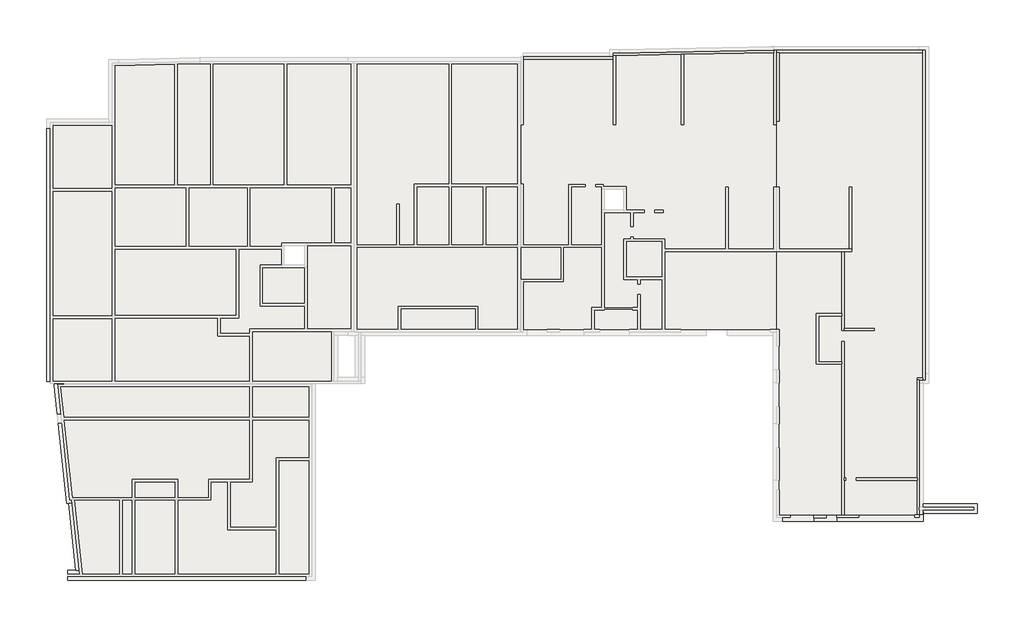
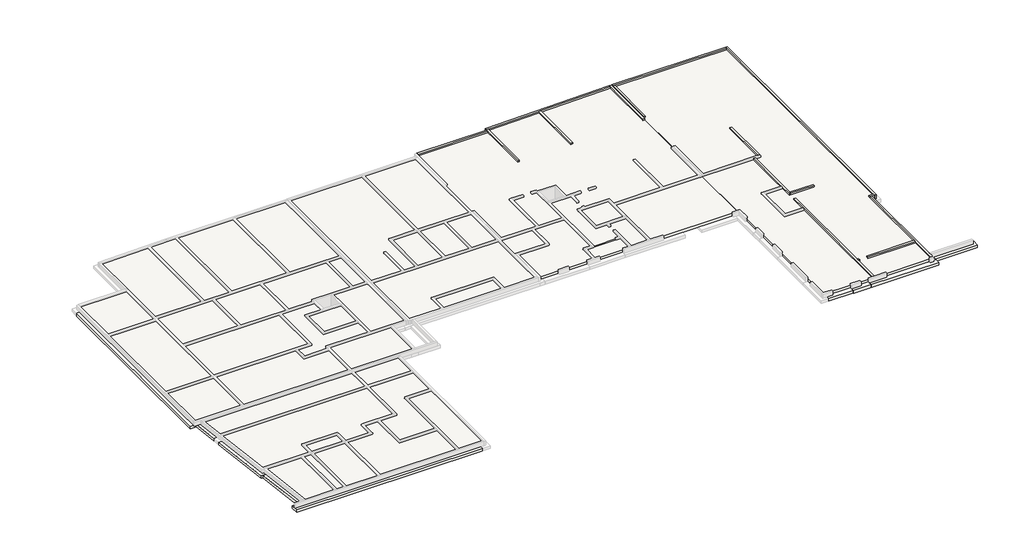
# One storey, part 3 of 5: 16 walls, 14 footings, 7 slabs.
"""IFC4 building model written with IfcOpenShell, lengths in millimetres."""

from ifc_helpers import new_model, si_unit, frame, origin, place, context, project, spatial, polyline, outline, extrude, faceted_brep, element, save

model = new_model("IFC4")

# Units and contexts
model_context = context("Model", 3, world=origin())
ifc_project = project(units=[si_unit("LENGTHUNIT", "METRE", prefix="MILLI")], contexts=[model_context])

# Site, building, storey
site = spatial("IfcSite", under=ifc_project)
building = spatial("IfcBuilding", under=site)
storey = spatial("IfcBuildingStorey", under=building, Name="Base Mur soubassement", Elevation=-480.0)

# Footings
placement = place(None, origin())
element("IfcFooting", 1, ObjectType="Soubassement 30 cm/30 cm x 30 cm", at=placement, inside=storey, context=model_context, shape_type="Brep", body=[
    faceted_brep([(-1963.0020232, 10315.4117008, -480.0), (-1963.0020232, 10315.4117008, -780.0), (-1347.1943929, 10315.4117008, -780.0), (-1163.0020232, 10315.4117008, -780.0), (-1163.0020232, 10315.4117008, -480.0), (-1347.1943929, 10315.4117008, -480.0), (-1163.0020232, 10615.4625547, -480.0), (-1163.0020232, 15300.3661348, -480.0), (-1163.0020232, 16100.3661348, -480.0), (-1163.0020232, 26008.0923089, -480.0), (-1163.0020232, 26808.0923089, -480.0), (-1163.0020232, 31528.092309, -480.0), (-1963.0020232, 31528.092309, -480.0), (-1963.0020232, 31528.092309, -780.0), (-1163.0020232, 31528.092309, -780.0), (-1163.0020232, 26808.0923089, -780.0), (-1163.0020232, 26008.0923089, -780.0), (-1163.0020232, 16100.3661348, -780.0), (-1163.0020232, 15300.3661348, -780.0), (-1163.0020232, 10615.4625547, -780.0)], [[[0, 1, 2, 3, 4, 5]], [[0, 5, 4, 6, 7, 8, 9, 10, 11, 12]], [[1, 0, 12, 13]], [[3, 2, 1, 13, 14, 15, 16, 17, 18, 19]], [[4, 3, 19, 18, 17, 16, 15, 14, 11, 10, 9, 8, 7, 6]], [[12, 11, 14, 13]]]),
])
element("IfcFooting", 2, ObjectType="Soubassement 30 cm/30 cm x 30 cm", at=placement, inside=storey, context=model_context, shape_type="Brep", body=[
    faceted_brep([(-169.9979603, 6768.5535935, -480.0), (-974.404584, 6768.5535935, -480.0), (-267.3246929, 41.1378118, -480.0), (-108.0982579, 41.1378118, -480.0), (537.0819307, 41.1378118, -480.0), (452.9985425, 841.1378118, -480.0), (-169.9979603, 6768.5535935, -780.0), (537.0819307, 41.1378118, -780.0), (452.9985425, 841.1378118, -780.0), (-974.404584, 6768.5535935, -780.0), (-108.0982579, 41.1378118, -780.0), (-267.3246929, 41.1378118, -780.0)], [[[0, 1, 2, 3, 4, 5]], [[6, 0, 5, 4, 7, 8]], [[9, 6, 8, 7, 10, 11]], [[1, 9, 11, 2]], [[1, 0, 6, 9]], [[4, 3, 2, 11, 10, 7]]]),
    faceted_brep([(-1058.4879722, 7568.5535935, -480.0), (-254.0813485, 7568.5535935, -480.0), (-463.9649378, 9565.4625547, -480.0), (-574.3243848, 10615.4625547, -480.0), (-1163.0020232, 10615.4625547, -480.0), (-1163.0020232, 10315.4117008, -480.0), (-1347.1943929, 10315.4117008, -480.0), (-254.0813485, 7568.5535935, -780.0), (-463.9649378, 9565.4625547, -780.0), (-574.3243848, 10615.4625547, -780.0), (-1058.4879722, 7568.5535935, -780.0), (-1347.1943929, 10315.4117008, -780.0), (-1163.0020232, 10315.4117008, -780.0), (-1163.0020232, 10615.4625547, -780.0)], [[[0, 1, 2, 3, 4, 5, 6]], [[1, 7, 8, 9, 3, 2]], [[7, 10, 11, 12, 13, 9, 8]], [[10, 0, 6, 11]], [[1, 0, 10, 7]], [[3, 9, 13, 4]], [[5, 12, 11, 6]], [[12, 5, 4, 13]]]),
])
element("IfcFooting", 3, ObjectType="Soubassement 30 cm/30 cm x 30 cm", at=placement, inside=storey, context=model_context, shape_type="Brep", body=[
    faceted_brep([(1287.6563061, -5585.1620119, -480.0), (696.3083658, 41.1378118, -480.0), (612.2249776, 841.1378118, -480.0), (452.9985425, 841.1378118, -480.0), (537.0819307, 41.1378118, -480.0), (-108.0982579, 41.1378118, -480.0), (483.2496825, -5585.1620119, -480.0), (1287.6563061, -5585.1620119, -780.0), (696.3083658, 41.1378118, -780.0), (612.2249776, 841.1378118, -780.0), (483.2496825, -5585.1620119, -780.0), (-108.0982579, 41.1378118, -780.0), (537.0819307, 41.1378118, -780.0), (452.9985425, 841.1378118, -780.0)], [[[0, 1, 2, 3, 4, 5, 6]], [[2, 1, 0, 7, 8, 9]], [[9, 8, 7, 10, 11, 12, 13]], [[10, 6, 5, 11]], [[0, 6, 10, 7]], [[2, 9, 13, 3]], [[12, 4, 3, 13]], [[4, 12, 11, 5]]]),
])
element("IfcFooting", 4, ObjectType="Soubassement 30 cm/30 cm x 30 cm", at=placement, inside=storey, context=model_context, shape_type="Brep", body=[
    faceted_brep([(-184.0651209, -6385.1620119, -780.0), (-184.0651209, -6385.1620119, -480.0), (-184.0651209, -5585.1620119, -480.0), (-184.0651209, -5585.1620119, -780.0), (19795.920738, -6385.1620119, -480.0), (19795.920738, -5585.1620119, -480.0), (17823.8377948, -5585.1620119, -480.0), (17023.8377948, -5585.1620119, -480.0), (9359.0521384, -5585.1620119, -480.0), (8559.0521384, -5585.1620119, -480.0), (5732.5686745, -5585.1620119, -480.0), (4932.5686745, -5585.1620119, -480.0), (4682.6863545, -5585.1620119, -480.0), (3882.6863545, -5585.1620119, -480.0), (1287.6563061, -5585.1620119, -480.0), (483.2496825, -5585.1620119, -480.0), (19795.920738, -6385.1620119, -780.0), (483.2496825, -5585.1620119, -780.0), (1287.6563061, -5585.1620119, -780.0), (3882.6863545, -5585.1620119, -780.0), (4682.6863545, -5585.1620119, -780.0), (4932.5686745, -5585.1620119, -780.0), (5732.5686745, -5585.1620119, -780.0), (8559.0521384, -5585.1620119, -780.0), (9359.0521384, -5585.1620119, -780.0), (17023.8377948, -5585.1620119, -780.0), (17823.8377948, -5585.1620119, -780.0), (19795.920738, -5585.1620119, -780.0)], [[[0, 1, 2, 3]], [[2, 1, 4, 5, 6, 7, 8, 9, 10, 11, 12, 13, 14, 15]], [[1, 0, 16, 4]], [[0, 3, 17, 18, 19, 20, 21, 22, 23, 24, 25, 26, 27, 16]], [[3, 2, 15, 14, 13, 12, 11, 10, 9, 8, 7, 6, 5, 27, 26, 25, 24, 23, 22, 21, 20, 19, 18, 17]], [[5, 4, 16, 27]]]),
])
element("IfcFooting", 5, ObjectType="Soubassement 30 cm/30 cm x 30 cm", at=placement, inside=storey, context=model_context, shape_type="SweptSolid", body=[
    extrude(outline(polyline([(3882.6863545, 41.1378118), (4682.6863545, 41.1378118), (4682.6863545, -5585.1620119), (3882.6863545, -5585.1620119), (3882.6863545, 41.1378118)])), frame((0.0, 0.0, -780.0), z_axis=(0.0, 0.0, 1.0), x_axis=(1.0, 0.0, 0.0)), (0.0, 0.0, 1.0), 300.0),
])
element("IfcFooting", 6, ObjectType="Soubassement 30 cm/30 cm x 30 cm", at=placement, inside=storey, context=model_context, shape_type="Brep", body=[
    faceted_brep([(4932.5686745, 2354.6479064, -480.0), (4932.5686745, 841.1378118, -480.0), (4932.5686745, 41.1378118, -480.0), (4932.5686745, -5585.1620119, -480.0), (5732.5686745, -5585.1620119, -480.0), (5732.5686745, 41.1378118, -480.0), (5732.5686745, 841.1378118, -480.0), (5732.5686745, 1554.6479064, -480.0), (5732.5686745, 2354.6479064, -480.0), (5732.5686745, 2354.6479064, -780.0), (5732.5686745, -5585.1620119, -780.0), (5732.5686745, 41.1378118, -780.0), (5732.5686745, 841.1378118, -780.0), (5732.5686745, 1554.6479064, -780.0), (4932.5686745, 2354.6479064, -780.0), (4932.5686745, -5585.1620119, -780.0), (4932.5686745, 41.1378118, -780.0), (4932.5686745, 841.1378118, -780.0)], [[[0, 1, 2, 3, 4, 5, 6, 7, 8]], [[9, 8, 7, 6, 5, 4, 10, 11, 12, 13]], [[14, 9, 13, 12, 11, 10, 15, 16, 17]], [[0, 14, 17, 16, 15, 3, 2, 1]], [[4, 3, 15, 10]], [[0, 8, 9, 14]]]),
])
element("IfcFooting", 7, ObjectType="Soubassement 30 cm/30 cm x 30 cm", at=placement, inside=storey, context=model_context, shape_type="Brep", body=[
    faceted_brep([(8559.0521384, -5585.1620119, -480.0), (9359.0521384, -5585.1620119, -480.0), (9359.0521384, 41.1378118, -480.0), (8559.0521384, 41.1378118, -480.0), (9359.0521384, -5585.1620119, -780.0), (9359.0521384, 41.1378118, -780.0), (8559.0521384, -5585.1620119, -780.0), (8559.0521384, 41.1378118, -780.0)], [[[0, 1, 2, 3]], [[1, 4, 5, 2]], [[4, 6, 7, 5]], [[6, 0, 3, 7]], [[1, 0, 6, 4]], [[3, 2, 5, 7]]]),
    faceted_brep([(9359.0521384, 2354.6479064, -480.0), (8559.0521384, 2354.6479064, -480.0), (8559.0521384, 1554.6479064, -480.0), (8559.0521384, 841.1378118, -480.0), (9359.0521384, 841.1378118, -480.0), (9359.0521384, 2354.6479064, -780.0), (9359.0521384, 841.1378118, -780.0), (8559.0521384, 2354.6479064, -780.0), (8559.0521384, 841.1378118, -780.0), (8559.0521384, 1554.6479064, -780.0)], [[[0, 1, 2, 3, 4]], [[5, 0, 4, 6]], [[7, 5, 6, 8, 9]], [[1, 7, 9, 8, 3, 2]], [[4, 3, 8, 6]], [[1, 0, 5, 7]]]),
])
element("IfcFooting", 8, ObjectType="Soubassement 30 cm/30 cm x 30 cm", at=placement, inside=storey, context=model_context, shape_type="Brep", body=[
    faceted_brep([(12965.8329945, 1554.5667291, -480.0), (12965.8329945, -2445.4332709, -480.0), (13765.8329945, -2445.4332709, -480.0), (13765.8329945, -1645.4332709, -480.0), (13765.8329945, 1554.5667291, -480.0), (13765.8329945, 1554.5667291, -780.0), (13765.8329945, -2445.4332709, -780.0), (13765.8329945, -1645.4332709, -780.0), (12965.8329945, 1554.5667291, -780.0), (12965.8329945, -2445.4332709, -780.0)], [[[0, 1, 2, 3, 4]], [[5, 4, 3, 2, 6, 7]], [[8, 5, 7, 6, 9]], [[0, 8, 9, 1]], [[0, 4, 5, 8]], [[2, 1, 9, 6]]]),
])
element("IfcFooting", 9, ObjectType="Soubassement 30 cm/30 cm x 30 cm", at=placement, inside=storey, context=model_context, shape_type="SweptSolid", body=[
    extrude(outline(polyline([(17023.8377948, -1645.4332709), (17023.8377948, -2445.4332709), (13765.8329945, -2445.4332709), (13765.8329945, -1645.4332709), (17023.8377948, -1645.4332709)])), frame((0.0, 0.0, -780.0), z_axis=(0.0, 0.0, 1.0), x_axis=(1.0, 0.0, 0.0)), (0.0, 0.0, 1.0), 300.0),
])
element("IfcFooting", 10, ObjectType="Soubassement 30 cm/30 cm x 30 cm", at=placement, inside=storey, context=model_context, shape_type="Brep", body=[
    faceted_brep([(17023.8377948, 4181.8208674, -480.0), (17023.8377948, -1645.4332709, -480.0), (17023.8377948, -2445.4332709, -480.0), (17023.8377948, -5585.1620119, -480.0), (17823.8377948, -5585.1620119, -480.0), (17823.8377948, 3381.8208674, -480.0), (17823.8377948, 4181.8208674, -480.0), (17823.8377948, 4181.8208674, -780.0), (17823.8377948, -5585.1620119, -780.0), (17823.8377948, 3381.8208674, -780.0), (17023.8377948, 4181.8208674, -780.0), (17023.8377948, -5585.1620119, -780.0), (17023.8377948, -2445.4332709, -780.0), (17023.8377948, -1645.4332709, -780.0)], [[[0, 1, 2, 3, 4, 5, 6]], [[7, 6, 5, 4, 8, 9]], [[10, 7, 9, 8, 11, 12, 13]], [[0, 10, 13, 12, 11, 3, 2, 1]], [[0, 6, 7, 10]], [[4, 3, 11, 8]]]),
])
element("IfcFooting", 11, ObjectType="Soubassement 30 cm/30 cm x 30 cm", at=placement, inside=storey, context=model_context, shape_type="Brep", body=[
    faceted_brep([(62454.5225082, -1433.5235574, -480.0), (62454.5225082, -1433.5235574, -780.0), (62454.5225082, -641.1001328, -780.0), (62454.5225082, -633.5235574, -780.0), (62454.5225082, -633.5235574, -480.0), (62454.5225082, -641.1001328, -480.0), (59852.8933514, -633.5235574, -480.0), (59852.8933514, -1433.5235574, -480.0), (59852.8933514, -1433.5235574, -780.0), (59852.8933514, -633.5235574, -780.0)], [[[0, 1, 2, 3, 4, 5]], [[0, 5, 4, 6, 7]], [[1, 0, 7, 8]], [[3, 2, 1, 8, 9]], [[4, 3, 9, 6]], [[7, 6, 9, 8]]]),
])
element("IfcFooting", 12, ObjectType="Soubassement 30 cm/30 cm x 30 cm", at=placement, inside=storey, context=model_context, shape_type="Brep", body=[
    faceted_brep([(64375.0708978, -641.1001328, -480.0), (64375.0708978, -1437.3118451, -480.0), (64375.0708978, -1441.1001328, -480.0), (64375.0708978, -1441.1001328, -780.0), (64375.0708978, -1437.3118451, -780.0), (64375.0708978, -641.1001328, -780.0), (62454.5225082, -1441.1001328, -480.0), (62454.5225082, -1433.5235574, -480.0), (62454.5225082, -641.1001328, -480.0), (62454.5225082, -641.1001328, -780.0), (62454.5225082, -1433.5235574, -780.0), (62454.5225082, -1441.1001328, -780.0)], [[[0, 1, 2, 3, 4, 5]], [[6, 7, 8, 9, 10, 11]], [[0, 8, 7, 6, 2, 1]], [[3, 2, 6, 11]], [[5, 4, 3, 11, 10, 9]], [[0, 5, 9, 8]]]),
])
element("IfcFooting", 13, ObjectType="Soubassement 30 cm/30 cm x 30 cm", at=placement, inside=storey, context=model_context, shape_type="Brep", body=[
    faceted_brep([(71637.0301152, -1437.3118451, -480.0), (71637.0301152, -1437.3118451, -780.0), (71637.0301152, -788.991972, -780.0), (71637.0301152, -637.3118451, -780.0), (71637.0301152, -637.3118451, -480.0), (71637.0301152, -788.991972, -480.0), (64375.0708978, -1437.3118451, -780.0), (64375.0708978, -1437.3118451, -480.0), (64375.0708978, -641.1001328, -480.0), (64375.0708978, -637.3118451, -480.0), (64375.0708978, -637.3118451, -780.0), (64375.0708978, -641.1001328, -780.0), (71617.0236897, -637.3118451, -480.0), (71617.0236897, -917.313191, -480.0), (70817.0236897, -917.313191, -480.0), (70817.0236897, -637.3118451, -480.0), (65313.2256523, -637.3118451, -480.0), (64513.2256523, -637.3118451, -480.0), (64513.2256523, -637.3118451, -780.0), (65313.2256523, -637.3118451, -780.0), (70817.0236897, -637.3118451, -780.0), (70817.0236897, -917.313191, -780.0), (71617.0236897, -917.313191, -780.0), (71617.0236897, -637.3118451, -780.0)], [[[0, 1, 2, 3, 4, 5]], [[6, 7, 8, 9, 10, 11]], [[7, 0, 5, 4, 12, 13, 14, 15, 16, 17, 9, 8]], [[1, 0, 7, 6]], [[3, 2, 1, 6, 11, 10, 18, 19, 20, 21, 22, 23]], [[10, 9, 17, 16, 15, 20, 19, 18]], [[4, 3, 23, 12]], [[14, 21, 20, 15]], [[22, 13, 12, 23]], [[21, 14, 13, 22]]]),
])
element("IfcFooting", 14, ObjectType="Soubassement 30 cm/30 cm x 30 cm", at=placement, inside=storey, context=model_context, shape_type="SweptSolid", body=[
    extrude(outline(polyline([(76187.1454515, 11.008028), (76187.1454515, -788.991972), (71637.0301152, -788.991972), (71637.0301152, -637.3118451), (71617.0236897, -637.3118451), (71617.0236897, 11.008028), (76187.1454515, 11.008028)])), frame((0.0, 0.0, -780.0), z_axis=(0.0, 0.0, 1.0), x_axis=(1.0, 0.0, 0.0)), (0.0, 0.0, 1.0), 300.0),
])

# Slabs
element("IfcSlab", 15, ObjectType="Dalle en béton - 300 mm SF", at=placement, inside=storey, context=model_context, shape_type="SweptSolid", body=[
    extrude(outline(polyline([(54755.0439194, 27157.8817009), (54755.0439194, 26457.7796483), (44757.2462422, 26457.7796483), (44757.2462422, 27157.8817009), (54755.0439194, 27157.8817009)])), frame((0.0, 0.0, -780.0), z_axis=(0.0, 0.0, 1.0), x_axis=(1.0, 0.0, 0.0)), (0.0, 0.0, 1.0), 300.0),
])
element("IfcSlab", 16, ObjectType="Dalle en béton - 300 mm SF", at=placement, inside=storey, context=model_context, shape_type="SweptSolid", body=[
    extrude(outline(polyline([(58792.2183923, 27157.8817009), (58792.2183923, 26457.7796483), (55555.0439194, 26457.7796483), (55555.0439194, 27157.8817009), (58792.2183923, 27157.8817009)])), frame((0.0, 0.0, -780.0), z_axis=(0.0, 0.0, 1.0), x_axis=(1.0, 0.0, 0.0)), (0.0, 0.0, 1.0), 300.0),
])
element("IfcSlab", 17, ObjectType="Dalle en béton - 300 mm SF", at=placement, inside=storey, context=model_context, shape_type="SweptSolid", body=[
    extrude(outline(polyline([(65113.8694348, 27157.8817009), (65113.8694348, 26457.7796483), (59852.3933514, 26457.7796483), (59852.3933514, 27157.8817009), (65113.8694348, 27157.8817009)])), frame((0.0, 0.0, -780.0), z_axis=(0.0, 0.0, 1.0), x_axis=(1.0, 0.0, 0.0)), (0.0, 0.0, 1.0), 300.0),
])
element("IfcSlab", 18, ObjectType="Dalle en béton - 300 mm SF", at=placement, inside=storey, context=model_context, shape_type="SweptSolid", body=[
    extrude(outline(polyline([(71302.998512, 27157.8817009), (71302.998512, 26457.7796483), (65913.8694348, 26457.7796483), (65913.8694348, 27157.8817009), (71302.998512, 27157.8817009)])), frame((0.0, 0.0, -780.0), z_axis=(0.0, 0.0, 1.0), x_axis=(1.0, 0.0, 0.0)), (0.0, 0.0, 1.0), 300.0),
])
element("IfcSlab", 19, ObjectType="Tout venant 30 cm", at=placement, inside=storey, context=model_context, shape_type="SweptSolid", body=[
    extrude(outline(polyline([(20095.920738, 3681.8208674), (20095.920738, -5885.1620119), (17523.8377948, -5885.1620119), (17523.8377948, 3681.8208674), (20095.920738, 3681.8208674)])), frame((0.0, 0.0, -480.0), z_axis=(0.0, 0.0, 1.0), x_axis=(1.0, 0.0, 0.0)), (0.0, 0.0, 1.0), 300.0),
])
element("IfcSlab", 20, ObjectType="Tout venant 30 cm", at=placement, inside=storey, context=model_context, shape_type="SweptSolid", body=[
    extrude(outline(polyline([(8859.0521384, 1854.6479064), (8859.0521384, 541.1378118), (5432.5686745, 541.1378118), (5432.5686745, 1854.6479064), (8859.0521384, 1854.6479064)])), frame((0.0, 0.0, -480.0), z_axis=(0.0, 0.0, 1.0), x_axis=(1.0, 0.0, 0.0)), (0.0, 0.0, 1.0), 300.0),
])
element("IfcSlab", 21, ObjectType="Tout venant 30 cm", at=placement, inside=storey, context=model_context, shape_type="SweptSolid", body=[
    extrude(outline(polyline([(5232.5686745, 365.3188854), (5232.5686745, -5860.9809383), (4382.6863545, -5860.9809383), (4382.6863545, 365.3188854), (5232.5686745, 365.3188854)])), frame((0.0, 0.0, -480.0), z_axis=(0.0, 0.0, 1.0), x_axis=(1.0, 0.0, 0.0)), (0.0, 0.0, 1.0), 300.0),
    extrude(outline(polyline([(4182.6863545, 365.3188854), (4182.6863545, -5860.9809383), (1017.5350928, -5860.9809383), (363.1246113, 365.3188854), (4182.6863545, 365.3188854)])), frame((0.0, 0.0, -480.0), z_axis=(0.0, 0.0, 1.0), x_axis=(1.0, 0.0, 0.0)), (0.0, 0.0, 1.0), 300.0),
    extrude(outline(polyline([(15109.3203129, 7092.7346671), (15109.3203129, 2078.7478027), (11642.4727838, 2078.7478027), (11642.4727838, 565.3188854), (9059.0521384, 565.3188854), (9059.0521384, 2078.82898), (5232.5686745, 2078.82898), (5232.5686745, 565.3188854), (182.8773292, 565.3188854), (-503.1817148, 7092.7346671), (15109.3203129, 7092.7346671)])), frame((0.0, 0.0, -480.0), z_axis=(0.0, 0.0, 1.0), x_axis=(1.0, 0.0, 0.0)), (0.0, 0.0, 1.0), 300.0),
    extrude(outline(polyline([(8859.0521384, 1878.82898), (8859.0521384, 565.3188854), (5432.5686745, 565.3188854), (5432.5686745, 1878.82898), (8859.0521384, 1878.82898)])), frame((0.0, 0.0, -480.0), z_axis=(0.0, 0.0, 1.0), x_axis=(1.0, 0.0, 0.0)), (0.0, 0.0, 1.0), 300.0),
    extrude(outline(polyline([(8859.0521384, 365.3188854), (8859.0521384, -5860.9809383), (5432.5686745, -5860.9809383), (5432.5686745, 365.3188854), (8859.0521384, 365.3188854)])), frame((0.0, 0.0, -480.0), z_axis=(0.0, 0.0, 1.0), x_axis=(1.0, 0.0, 0.0)), (0.0, 0.0, 1.0), 300.0),
    extrude(outline(polyline([(11842.4727838, 365.3188854), (11842.4727838, 1878.7478027), (13265.8329945, 1878.7478027), (13265.8329945, -2121.2521973), (17323.8377948, -2121.2521973), (17323.8377948, -5860.9809383), (9059.0521384, -5860.9809383), (9059.0521384, 365.3188854), (11842.4727838, 365.3188854)])), frame((0.0, 0.0, -480.0), z_axis=(0.0, 0.0, 1.0), x_axis=(1.0, 0.0, 0.0)), (0.0, 0.0, 1.0), 300.0),
    extrude(outline(polyline([(20095.920738, 9889.6436283), (20095.920738, 7292.7346671), (15309.3203129, 7292.7346671), (15309.3203129, 9889.6436283), (20095.920738, 9889.6436283)])), frame((0.0, 0.0, -480.0), z_axis=(0.0, 0.0, 1.0), x_axis=(1.0, 0.0, 0.0)), (0.0, 0.0, 1.0), 300.0),
    extrude(outline(polyline([(15109.3203129, 7292.7346671), (-524.2025618, 7292.7346671), (-797.1486922, 9889.6436283), (15109.3203129, 9889.6436283), (15109.3203129, 7292.7346671)])), frame((0.0, 0.0, -480.0), z_axis=(0.0, 0.0, 1.0), x_axis=(1.0, 0.0, 0.0)), (0.0, 0.0, 1.0), 300.0),
    extrude(outline(polyline([(15309.3203129, 1878.7478027), (15309.3203129, 7092.7346671), (20095.920738, 7092.7346671), (20095.920738, 3906.001941), (17323.8377948, 3906.001941), (17323.8377948, -1921.2521973), (13465.8329945, -1921.2521973), (13465.8329945, 1878.7478027), (15309.3203129, 1878.7478027)])), frame((0.0, 0.0, -480.0), z_axis=(0.0, 0.0, 1.0), x_axis=(1.0, 0.0, 0.0)), (0.0, 0.0, 1.0), 300.0),
    extrude(outline(polyline([(20095.920738, 3706.001941), (20095.920738, -5860.9809383), (17523.8377948, -5860.9809383), (17523.8377948, 3706.001941), (20095.920738, 3706.001941)])), frame((0.0, 0.0, -480.0), z_axis=(0.0, 0.0, 1.0), x_axis=(1.0, 0.0, 0.0)), (0.0, 0.0, 1.0), 300.0),
    extrude(outline(polyline([(3556.9078335, 15624.5472084), (3556.9078335, 10339.5927744), (-1463.0020232, 10339.5927744), (-1463.0020232, 15624.5472084), (3556.9078335, 15624.5472084)])), frame((0.0, 0.0, -480.0), z_axis=(0.0, 0.0, 1.0), x_axis=(1.0, 0.0, 0.0)), (0.0, 0.0, 1.0), 300.0),
    extrude(outline(polyline([(21968.3655313, 14512.0191471), (21968.3655313, 10339.5927744), (15309.3203129, 10339.5927744), (15309.3203129, 14512.0191471), (21968.3655313, 14512.0191471)])), frame((0.0, 0.0, -480.0), z_axis=(0.0, 0.0, 1.0), x_axis=(1.0, 0.0, 0.0)), (0.0, 0.0, 1.0), 300.0),
    extrude(outline(polyline([(19729.9333488, 19888.8345051), (19729.9333488, 16865.2101068), (16166.1932436, 16865.2101068), (16166.1932436, 19888.8345051), (19729.9333488, 19888.8345051)])), frame((0.0, 0.0, -480.0), z_axis=(0.0, 0.0, 1.0), x_axis=(1.0, 0.0, 0.0)), (0.0, 0.0, 1.0), 300.0),
    extrude(outline(polyline([(23619.3814813, 26612.0683287), (23619.3814813, 21941.1782079), (22195.0786989, 21941.1782079), (22195.0786989, 26612.0683287), (23619.3814813, 26612.0683287)])), frame((0.0, 0.0, -480.0), z_axis=(0.0, 0.0, 1.0), x_axis=(1.0, 0.0, 0.0)), (0.0, 0.0, 1.0), 300.0),
    extrude(outline(polyline([(14913.9907355, 26612.0683287), (14913.9907355, 21650.12659), (9978.0983694, 21650.12659), (9978.0983694, 26612.0683287), (14913.9907355, 26612.0683287)])), frame((0.0, 0.0, -480.0), z_axis=(0.0, 0.0, 1.0), x_axis=(1.0, 0.0, 0.0)), (0.0, 0.0, 1.0), 300.0),
    extrude(outline(polyline([(9778.0983694, 26612.0683287), (9778.0983694, 21650.12659), (3756.9078335, 21650.12659), (3756.9078335, 26612.0683287), (9778.0983694, 26612.0683287)])), frame((0.0, 0.0, -480.0), z_axis=(0.0, 0.0, 1.0), x_axis=(1.0, 0.0, 0.0)), (0.0, 0.0, 1.0), 300.0),
    extrude(outline(polyline([(3556.9078335, 26332.2733825), (3556.9078335, 15824.5472084), (-1463.0020232, 15824.5472084), (-1463.0020232, 26332.2733825), (3556.9078335, 26332.2733825)])), frame((0.0, 0.0, -480.0), z_axis=(0.0, 0.0, 1.0), x_axis=(1.0, 0.0, 0.0)), (0.0, 0.0, 1.0), 300.0),
    extrude(outline(polyline([(3556.9078335, 31852.2733826), (3556.9078335, 26532.2733825), (-1463.0020232, 26532.2733825), (-1463.0020232, 31852.2733826), (3556.9078335, 31852.2733826)])), frame((0.0, 0.0, -480.0), z_axis=(0.0, 0.0, 1.0), x_axis=(1.0, 0.0, 0.0)), (0.0, 0.0, 1.0), 300.0),
    extrude(outline(polyline([(17999.2548774, 37006.5890297), (17999.2548774, 26812.0683287), (12003.2656575, 26812.0683287), (12003.2656575, 37006.5890297), (17999.2548774, 37006.5890297)])), frame((0.0, 0.0, -480.0), z_axis=(0.0, 0.0, 1.0), x_axis=(1.0, 0.0, 0.0)), (0.0, 0.0, 1.0), 300.0),
    extrude(outline(polyline([(23619.3814813, 37006.5890297), (23619.3814813, 26812.0683287), (18199.2548774, 26812.0683287), (18199.2548774, 37006.5890297), (23619.3814813, 37006.5890297)])), frame((0.0, 0.0, -480.0), z_axis=(0.0, 0.0, 1.0), x_axis=(1.0, 0.0, 0.0)), (0.0, 0.0, 1.0), 300.0),
    extrude(outline(polyline([(9017.5794193, 36969.0954459), (11803.2656575, 37006.5890297), (11803.2656575, 26812.0683287), (9017.5794193, 26812.0683287), (9017.5794193, 36969.0954459)])), frame((0.0, 0.0, -480.0), z_axis=(0.0, 0.0, 1.0), x_axis=(1.0, 0.0, 0.0)), (0.0, 0.0, 1.0), 300.0),
    extrude(outline(polyline([(8817.5794193, 36965.1134504), (8817.5794193, 26812.0683287), (3756.9078335, 26812.0683287), (3756.9078335, 36864.355592), (8817.5794193, 36965.1134504)])), frame((0.0, 0.0, -480.0), z_axis=(0.0, 0.0, 1.0), x_axis=(1.0, 0.0, 0.0)), (0.0, 0.0, 1.0), 300.0),
    extrude(outline(polyline([(15113.9907355, 21650.12659), (15113.9907355, 26612.0683287), (21995.0786989, 26612.0683287), (21995.0786989, 21941.1782079), (17765.1211572, 21941.1782079), (17765.1211572, 21650.12659), (15113.9907355, 21650.12659)])), frame((0.0, 0.0, -480.0), z_axis=(0.0, 0.0, 1.0), x_axis=(1.0, 0.0, 0.0)), (0.0, 0.0, 1.0), 300.0),
    extrude(outline(polyline([(14164.9548931, 21450.12659), (17765.1211572, 21450.12659), (17765.1211572, 20088.8345051), (15966.1932436, 20088.8345051), (15966.1932436, 16665.2101068), (19729.9333488, 16665.2101068), (19729.9333488, 14712.0191471), (15109.3203129, 14712.0191471), (15109.3203129, 14341.896185), (12609.3203129, 14341.896185), (12609.3203129, 15673.8143642), (14164.9548931, 15673.8143642), (14164.9548931, 21450.12659)])), frame((0.0, 0.0, -480.0), z_axis=(0.0, 0.0, 1.0), x_axis=(1.0, 0.0, 0.0)), (0.0, 0.0, 1.0), 300.0),
    extrude(outline(polyline([(3756.9078335, 21450.12659), (13964.9548931, 21450.12659), (13964.9548931, 15873.8143642), (3756.9078335, 15873.8143642), (3756.9078335, 21450.12659)])), frame((0.0, 0.0, -480.0), z_axis=(0.0, 0.0, 1.0), x_axis=(1.0, 0.0, 0.0)), (0.0, 0.0, 1.0), 300.0),
    extrude(outline(polyline([(3756.9078335, 10339.5927744), (3756.9078335, 15673.8143642), (12409.3203129, 15673.8143642), (12409.3203129, 14141.896185), (15109.3203129, 14141.896185), (15109.3203129, 10339.5927744), (3756.9078335, 10339.5927744)])), frame((0.0, 0.0, -480.0), z_axis=(0.0, 0.0, 1.0), x_axis=(1.0, 0.0, 0.0)), (0.0, 0.0, 1.0), 300.0),
    extrude(outline(polyline([(23619.3814813, 21741.1782079), (23619.3814813, 14712.0191471), (19966.7596106, 14712.0191471), (19966.7596106, 21741.1782079), (23619.3814813, 21741.1782079)])), frame((0.0, 0.0, -480.0), z_axis=(0.0, 0.0, 1.0), x_axis=(1.0, 0.0, 0.0)), (0.0, 0.0, 1.0), 300.0),
    extrude(outline(polyline([(34052.3966699, 16435.582367), (34052.3966699, 14688.5403923), (27766.9796966, 14688.5403923), (27766.9796966, 16435.582367), (34052.3966699, 16435.582367)])), frame((0.0, 0.0, -480.0), z_axis=(0.0, 0.0, 1.0), x_axis=(1.0, 0.0, 0.0)), (0.0, 0.0, 1.0), 300.0),
    extrude(outline(polyline([(31828.7587922, 26696.6311088), (31828.7587922, 21797.9877307), (29098.3646686, 21797.9877307), (29098.3646686, 26696.6311088), (31828.7587922, 26696.6311088)])), frame((0.0, 0.0, -480.0), z_axis=(0.0, 0.0, 1.0), x_axis=(1.0, 0.0, 0.0)), (0.0, 0.0, 1.0), 300.0),
    extrude(outline(polyline([(34693.5365752, 26696.6311088), (34693.5365752, 21797.9877307), (32028.7587922, 21797.9877307), (32028.7587922, 26696.6311088), (34693.5365752, 26696.6311088)])), frame((0.0, 0.0, -480.0), z_axis=(0.0, 0.0, 1.0), x_axis=(1.0, 0.0, 0.0)), (0.0, 0.0, 1.0), 300.0),
    extrude(outline(polyline([(37608.398272, 26696.6311088), (37608.398272, 21797.9877307), (34893.5365752, 21797.9877307), (34893.5365752, 26696.6311088), (37608.398272, 26696.6311088)])), frame((0.0, 0.0, -480.0), z_axis=(0.0, 0.0, 1.0), x_axis=(1.0, 0.0, 0.0)), (0.0, 0.0, 1.0), 300.0),
    extrude(outline(polyline([(37608.398272, 37006.5890297), (37608.398272, 26896.6311088), (32028.7587922, 26896.6311088), (32028.7587922, 37006.5890297), (37608.398272, 37006.5890297)])), frame((0.0, 0.0, -480.0), z_axis=(0.0, 0.0, 1.0), x_axis=(1.0, 0.0, 0.0)), (0.0, 0.0, 1.0), 300.0),
    extrude(outline(polyline([(31828.7587922, 37006.5890297), (31828.7587922, 26896.6311088), (28898.3646686, 26896.6311088), (28898.3646686, 21797.9877307), (27626.9896309, 21797.9877307), (27626.9896309, 25232.0052437), (27426.9896309, 25232.0052437), (27426.9896309, 21797.9877307), (24079.3002373, 21797.9877307), (24079.3002373, 37006.5890297), (31828.7587922, 37006.5890297)])), frame((0.0, 0.0, -480.0), z_axis=(0.0, 0.0, 1.0), x_axis=(1.0, 0.0, 0.0)), (0.0, 0.0, 1.0), 300.0),
    extrude(outline(polyline([(49724.9149229, 22106.6353061), (49724.9149229, 19089.4597045), (46711.356287, 19089.4597045), (46711.356287, 22106.6353061), (49724.9149229, 22106.6353061)])), frame((0.0, 0.0, -480.0), z_axis=(0.0, 0.0, 1.0), x_axis=(1.0, 0.0, 0.0)), (0.0, 0.0, 1.0), 300.0),
    extrude(outline(polyline([(41228.6220947, 21596.6311088), (41228.6220947, 18908.41901), (37868.7313075, 18908.41901), (37868.7313075, 21596.6311088), (41228.6220947, 21596.6311088)])), frame((0.0, 0.0, -480.0), z_axis=(0.0, 0.0, 1.0), x_axis=(1.0, 0.0, 0.0)), (0.0, 0.0, 1.0), 300.0),
    extrude(outline(polyline([(43272.2576695, 26682.0627745), (43272.2576695, 26882.0627745), (41866.5033212, 26882.0627745), (41866.5033212, 21796.6311088), (38068.7313075, 21796.6311088), (38068.7313075, 26896.6311088), (37868.7313075, 26896.6311088), (37868.7313075, 31882.0803592), (38068.6597873, 31882.0803592), (38068.6597873, 37404.7802927), (45618.6199345, 37404.7802927), (45618.6199345, 31882.0828082), (45818.6199345, 31882.0828082), (45818.6199345, 37697.0168105), (51333.0781831, 37806.7915114), (51333.0781831, 31882.0828082), (51533.0781831, 31882.0828082), (51533.0781831, 37810.7728526), (59092.2183923, 37961.2504369), (59092.2183923, 31882.0798101), (59292.2183923, 31882.0798101), (59292.2183923, 26646.8034461), (59092.2183923, 26646.8034461), (59092.2183923, 21446.8059895), (55255.0439194, 21446.8059895), (55255.0439194, 26646.8047777), (55055.0439194, 26646.8047777), (55055.0439194, 21446.8059895), (49924.9149229, 21446.8059895), (49924.9149229, 22306.6353061), (47287.0291518, 22306.6353061), (47287.0291518, 22452.4516205), (47087.0291518, 22452.4516205), (47087.0291518, 22306.6353061), (46511.356287, 22306.6353061), (46511.356287, 18889.4597045), (47687.6540405, 18889.4597045), (47687.6540405, 18489.4734179), (47887.6540405, 18489.4734179), (47887.6540405, 18889.4597045), (49724.9149229, 18889.4597045), (49724.9149229, 14682.0191453), (47887.6540405, 14682.0191453), (47887.6540405, 17634.3396338), (47687.6540405, 17634.3396338), (47687.6540405, 16526.8692285), (44857.2462422, 16526.8692285), (44857.2462422, 24525.1724447), (47077.0291518, 24525.1724447), (47077.0291518, 23342.4516205), (47277.0291518, 23342.4516205), (47277.0291518, 24525.1724447), (48207.3903862, 24525.1724447), (48207.3903862, 24725.1724447), (46707.3903862, 24725.1724447), (46707.3903862, 26681.9607219), (44757.2462422, 26681.9607219), (44757.2462422, 26882.0627745), (44162.2590145, 26882.0627745), (44162.2590145, 26682.0627745), (44657.2462422, 26682.0627745), (44657.2462422, 21796.6311088), (42066.5033212, 21796.6311088), (42066.5033212, 26682.0627745), (43272.2576695, 26682.0627745)])), frame((0.0, 0.0, -480.0), z_axis=(0.0, 0.0, 1.0), x_axis=(1.0, 0.0, 0.0)), (0.0, 0.0, 1.0), 300.0),
    extrude(outline(polyline([(44657.2462422, 21596.6311088), (44657.2462422, 16526.8692285), (43797.5546594, 16526.8692285), (43797.5546594, 14686.3216705), (38077.5546594, 14686.3216705), (38077.5546594, 18708.41901), (41428.6220947, 18708.41901), (41428.6220947, 21596.6311088), (44657.2462422, 21596.6311088)])), frame((0.0, 0.0, -480.0), z_axis=(0.0, 0.0, 1.0), x_axis=(1.0, 0.0, 0.0)), (0.0, 0.0, 1.0), 300.0),
    extrude(outline(polyline([(37608.398272, 21597.9877307), (37608.398272, 14688.5403923), (34252.3966699, 14688.5403923), (34252.3966699, 16635.582367), (27566.9796966, 16635.582367), (27566.9796966, 14688.5403923), (24079.3002373, 14688.5403923), (24079.3002373, 21597.9877307), (37608.398272, 21597.9877307)])), frame((0.0, 0.0, -480.0), z_axis=(0.0, 0.0, 1.0), x_axis=(1.0, 0.0, 0.0)), (0.0, 0.0, 1.0), 300.0),
    extrude(outline(polyline([(59292.2183923, 21246.8059895), (59292.2183923, 14682.0191451), (49924.9149229, 14682.0191451), (49924.9149229, 21246.8059895), (59292.2183923, 21246.8059895)])), frame((0.0, 0.0, -480.0), z_axis=(0.0, 0.0, 1.0), x_axis=(1.0, 0.0, 0.0)), (0.0, 0.0, 1.0), 300.0),
    extrude(outline(polyline([(59552.3933514, 32214.3833499), (59552.3933514, 37965.2969329), (71598.498036, 37965.2969329), (71598.498036, 10639.0340018), (71117.0236897, 10639.0340018), (71117.0236897, 2228.2125439), (66031.982948, 2228.2125439), (66031.982948, 2028.2125439), (71117.0236897, 2028.2125439), (71117.0236897, -913.1307715), (65013.2256523, -913.1307715), (65013.2256523, 2028.2125439), (65131.982969, 2028.2125439), (65131.982969, 2228.2125439), (65013.2256523, 2228.2125439), (65013.2256523, 13695.9002378), (64813.2256523, 13695.9002378), (64813.2256523, 11973.4143546), (62872.0019144, 11973.4143546), (62872.0019144, 15828.918211), (64812.3933514, 15828.918211), (64812.3933514, 14585.8820611), (67512.4458656, 14585.8820611), (67512.4458656, 14785.8820611), (65012.3933514, 14785.8820611), (65012.3933514, 21246.8059895), (65613.8694348, 21246.8059895), (65613.8694348, 26646.8026235), (65413.8694348, 26646.8026235), (65413.8694348, 21446.8059895), (59552.3933514, 21446.8059895), (59552.3933514, 26646.8034461), (59352.3933514, 26646.8034461), (59352.3933514, 32214.3833499), (59552.3933514, 32214.3833499)])), frame((0.0, 0.0, -480.0), z_axis=(0.0, 0.0, 1.0), x_axis=(1.0, 0.0, 0.0)), (0.0, 0.0, 1.0), 300.0),
    extrude(outline(polyline([(64812.3933514, 16028.918211), (62672.0019144, 16028.918211), (62672.0019144, 11773.4143546), (64813.2256523, 11773.4143546), (64813.2256523, -909.3424838), (59552.8933514, -909.3424838), (59552.8933514, 14685.6575162), (59355.8684797, 14685.6575162), (59355.8684797, 21245.6575162), (64812.3933514, 21245.6575162), (64812.3933514, 16028.918211)])), frame((0.0, 0.0, -480.0), z_axis=(0.0, 0.0, 1.0), x_axis=(1.0, 0.0, 0.0)), (0.0, 0.0, 1.0), 300.0),
    extrude(outline(polyline([(47687.6540405, 16326.8692285), (47687.6540405, 14682.0191453), (43997.5546594, 14682.0191453), (43997.5546594, 16326.8692285), (47687.6540405, 16326.8692285)])), frame((0.0, 0.0, -480.0), z_axis=(0.0, 0.0, 1.0), x_axis=(1.0, 0.0, 0.0)), (0.0, 0.0, 1.0), 300.0),
])

# Walls
element("IfcWall", 22, ObjectType="Ext. Voile BA 20", at=placement, inside=storey, context=model_context, shape_type="SweptSolid", body=[
    extrude(outline(polyline([(65012.3933514, 14761.7009875), (67512.4458656, 14761.7009875), (67512.4458656, 14561.7009875), (65012.3933514, 14561.7009875), (65012.3933514, 14761.7009875)])), frame((0.0, 0.0, -480.0), z_axis=(0.0, 0.0, 1.0), x_axis=(1.0, 0.0, 0.0)), (0.0, 0.0, 1.0), 480.0),
])
element("IfcWall", 23, ObjectType="Ext. Voile BA 20", at=placement, inside=storey, context=model_context, shape_type="Brep", body=[
    faceted_brep([(71598.498036, 38141.1158593, -480.0), (59352.3933514, 38141.1158593, -480.0), (59352.3933514, 38141.1158593, 0.0), (71598.498036, 38141.1158593, 0.0), (71598.498036, 37941.1158593, -480.0), (71598.498036, 37941.1158593, 0.0), (59552.3933514, 37941.1158593, 0.0), (59352.3933514, 37941.1158593, 0.0), (59352.3933514, 37941.1158593, -480.0), (59552.3933514, 37941.1158593, -480.0)], [[[0, 1, 2, 3]], [[4, 5, 6, 7, 8, 9]], [[1, 0, 4, 9, 8]], [[3, 2, 7, 6, 5]], [[0, 3, 5, 4]], [[2, 1, 8, 7]]]),
])
element("IfcWall", 24, ObjectType="Ext. Voile BA 20", at=placement, inside=storey, context=model_context, shape_type="Brep", body=[
    faceted_brep([(59092.2183923, 38137.108987, -480.0), (45618.6199345, 37868.8940194, -480.0), (45618.6199345, 37868.8940194, 0.0), (59092.2183923, 38137.108987, 0.0), (59092.2183923, 37937.0693633, -480.0), (59092.2183923, 37937.0693633, 0.0), (51533.0781831, 37786.591779, 0.0), (51333.0781831, 37782.6104378, 0.0), (45818.6199345, 37672.8357369, 0.0), (45618.6199345, 37668.8543956, 0.0), (45618.6199345, 37668.8543956, -480.0), (45818.6199345, 37672.8357369, -480.0), (51333.0781831, 37782.6104378, -480.0), (51533.0781831, 37786.591779, -480.0)], [[[0, 1, 2, 3]], [[4, 5, 6, 7, 8, 9, 10, 11, 12, 13]], [[1, 0, 4, 13, 12, 11, 10]], [[3, 2, 9, 8, 7, 6, 5]], [[0, 3, 5, 4]], [[2, 1, 10, 9]]]),
])
element("IfcWall", 25, ObjectType="Ext. Voile BA 20", at=placement, inside=storey, context=model_context, shape_type="Brep", body=[
    faceted_brep([(45618.6199345, 37668.8543956, -480.0), (45618.6199345, 37580.5992191, -480.0), (45618.6199345, 37380.5992191, -480.0), (45618.6199345, 31857.9017346, -480.0), (45618.6199345, 31857.9017346, 0.0), (45618.6199345, 37380.5992191, 0.0), (45618.6199345, 37580.5992191, 0.0), (45618.6199345, 37668.8543956, 0.0), (45818.6199345, 37672.8357369, -480.0), (45818.6199345, 37672.8357369, 0.0), (45818.6199345, 31857.9017346, 0.0), (45818.6199345, 31857.9017346, -480.0)], [[[0, 1, 2, 3, 4, 5, 6, 7]], [[8, 9, 10, 11]], [[3, 2, 1, 0, 8, 11]], [[4, 3, 11, 10]], [[7, 6, 5, 4, 10, 9]], [[0, 7, 9, 8]]]),
])
element("IfcWall", 26, ObjectType="Ext. Voile BA 20", at=placement, inside=storey, context=model_context, shape_type="Brep", body=[
    faceted_brep([(71598.498036, 10614.8529282, -480.0), (71117.0236897, 10614.8529282, -480.0), (71117.0236897, 10614.8529282, 0.0), (71598.498036, 10614.8529282, 0.0), (71598.498036, 10414.8529282, -480.0), (71598.498036, 10414.8529282, 0.0), (71317.0236897, 10414.8529282, 0.0), (71117.0236897, 10414.8529282, 0.0), (71117.0236897, 10414.8529282, -480.0), (71317.0236897, 10414.8529282, -480.0)], [[[0, 1, 2, 3]], [[4, 5, 6, 7, 8, 9]], [[1, 0, 4, 9, 8]], [[3, 2, 7, 6, 5]], [[0, 3, 5, 4]], [[2, 1, 8, 7]]]),
])
element("IfcWall", 27, ObjectType="Ext. Voile BA 20", at=placement, inside=storey, context=model_context, shape_type="SweptSolid", body=[
    extrude(outline(polyline([(65013.2256523, 2204.0314703), (65131.982969, 2204.0314703), (65131.982969, 2004.0314703), (65013.2256523, 2004.0314703), (65013.2256523, 2204.0314703)])), frame((0.0, 0.0, -480.0), z_axis=(0.0, 0.0, 1.0), x_axis=(1.0, 0.0, 0.0)), (0.0, 0.0, 1.0), 480.0),
])
element("IfcWall", 28, ObjectType="Voile BA 20", at=placement, inside=storey, context=model_context, shape_type="SweptSolid", body=[
    extrude(outline(polyline([(65613.8694348, 26622.6215499), (65613.8694348, 21422.6249159), (65413.8694348, 21422.6249159), (65413.8694348, 26622.6215499), (65613.8694348, 26622.6215499)])), frame((0.0, 0.0, -480.0), z_axis=(0.0, 0.0, 1.0), x_axis=(1.0, 0.0, 0.0)), (0.0, 0.0, 1.0), 480.0),
])
element("IfcWall", 29, ObjectType="Voile BA 20", at=placement, inside=storey, context=model_context, shape_type="Brep", body=[
    faceted_brep([(64812.3933514, 21222.6249159, -480.0), (64812.3933514, 16004.7371374, -480.0), (64812.3933514, 15804.7371374, -480.0), (64812.3933514, 14561.7009875, -480.0), (64812.3933514, 14561.7009875, 0.0), (64812.3933514, 15804.7371374, 0.0), (64812.3933514, 16004.7371374, 0.0), (64812.3933514, 21222.6249159, 0.0), (65012.3933514, 21222.6249159, -480.0), (65012.3933514, 21222.6249159, 0.0), (65012.3933514, 14761.7009875, 0.0), (65012.3933514, 14561.7009875, 0.0), (65012.3933514, 14561.7009875, -480.0), (65012.3933514, 14761.7009875, -480.0)], [[[0, 1, 2, 3, 4, 5, 6, 7]], [[8, 9, 10, 11, 12, 13]], [[3, 2, 1, 0, 8, 13, 12]], [[7, 6, 5, 4, 11, 10, 9]], [[0, 7, 9, 8]], [[4, 3, 12, 11]]]),
])
element("IfcWall", 30, ObjectType="Voile BA 20", at=placement, inside=storey, context=model_context, shape_type="Brep", body=[
    faceted_brep([(71798.498036, 10414.8529282, -480.0), (71798.498036, 38141.1158593, -480.0), (71798.498036, 38141.1158593, 0.0), (71798.498036, 10414.8529282, 0.0), (71598.498036, 10414.8529282, -480.0), (71598.498036, 10414.8529282, 0.0), (71598.498036, 10614.8529282, 0.0), (71598.498036, 37941.1158593, 0.0), (71598.498036, 38141.1158593, 0.0), (71598.498036, 38141.1158593, -480.0), (71598.498036, 37941.1158593, -480.0), (71598.498036, 10614.8529282, -480.0)], [[[0, 1, 2, 3]], [[4, 5, 6, 7, 8, 9, 10, 11]], [[1, 0, 4, 11, 10, 9]], [[3, 2, 8, 7, 6, 5]], [[2, 1, 9, 8]], [[0, 3, 5, 4]]]),
])
element("IfcWall", 31, ObjectType="Voile BA 20", at=placement, inside=storey, context=model_context, shape_type="SweptSolid", body=[
    extrude(outline(polyline([(59352.3933514, 32190.2022763), (59352.3933514, 37941.1158593), (59552.3933514, 37941.1158593), (59552.3933514, 32190.2022763), (59352.3933514, 32190.2022763)])), frame((0.0, 0.0, -480.0), z_axis=(0.0, 0.0, 1.0), x_axis=(1.0, 0.0, 0.0)), (0.0, 0.0, 1.0), 480.0),
])
element("IfcWall", 32, ObjectType="Voile BA 20", at=placement, inside=storey, context=model_context, shape_type="Brep", body=[
    faceted_brep([(59292.2183923, 31857.8987365, -480.0), (59292.2183923, 38141.0903283, -480.0), (59292.2183923, 38141.0903283, 0.0), (59292.2183923, 31857.8987365, 0.0), (59092.2183923, 31857.8987365, -480.0), (59092.2183923, 31857.8987365, 0.0), (59092.2183923, 37937.0693633, 0.0), (59092.2183923, 38137.108987, 0.0), (59092.2183923, 38137.108987, -480.0), (59092.2183923, 37937.0693633, -480.0)], [[[0, 1, 2, 3]], [[4, 5, 6, 7, 8, 9]], [[1, 0, 4, 9, 8]], [[3, 2, 7, 6, 5]], [[0, 3, 5, 4]], [[2, 1, 8, 7]]]),
])
element("IfcWall", 33, ObjectType="Voile BA 20", at=placement, inside=storey, context=model_context, shape_type="SweptSolid", body=[
    extrude(outline(polyline([(51333.0781831, 31857.9017346), (51333.0781831, 37782.6104378), (51533.0781831, 37786.591779), (51533.0781831, 31857.9017346), (51333.0781831, 31857.9017346)])), frame((0.0, 0.0, -480.0), z_axis=(0.0, 0.0, 1.0), x_axis=(1.0, 0.0, 0.0)), (0.0, 0.0, 1.0), 480.0),
])
element("IfcWall", 34, ObjectType="Voile BA 20", at=placement, inside=storey, context=model_context, shape_type="SweptSolid", body=[
    extrude(outline(polyline([(45618.6199345, 37380.5992191), (38068.6597873, 37380.5992191), (38068.6597873, 37580.5992191), (45618.6199345, 37580.5992191), (45618.6199345, 37380.5992191)])), frame((0.0, 0.0, -480.0), z_axis=(0.0, 0.0, 1.0), x_axis=(1.0, 0.0, 0.0)), (0.0, 0.0, 1.0), 480.0),
])
element("IfcWall", 35, ObjectType="Voile BA 20", at=placement, inside=storey, context=model_context, shape_type="Brep", body=[
    faceted_brep([(65013.2256523, -937.3118451, -480.0), (65013.2256523, 2004.0314703, -480.0), (65013.2256523, 2204.0314703, -480.0), (65013.2256523, 13671.7191642, -480.0), (65013.2256523, 13671.7191642, 0.0), (65013.2256523, 2204.0314703, 0.0), (65013.2256523, 2004.0314703, 0.0), (65013.2256523, -937.3118451, 0.0), (64813.2256523, -937.3118451, -480.0), (64813.2256523, -937.3118451, 0.0), (64813.2256523, 11749.233281, 0.0), (64813.2256523, 11949.233281, 0.0), (64813.2256523, 13671.7191642, 0.0), (64813.2256523, 13671.7191642, -480.0), (64813.2256523, 11949.233281, -480.0), (64813.2256523, 11749.233281, -480.0)], [[[0, 1, 2, 3, 4, 5, 6, 7]], [[8, 9, 10, 11, 12, 13, 14, 15]], [[3, 2, 1, 0, 8, 15, 14, 13]], [[4, 3, 13, 12]], [[7, 6, 5, 4, 12, 11, 10, 9]], [[0, 7, 9, 8]]]),
])
element("IfcWall", 36, ObjectType="Voile BA 20", at=placement, inside=storey, context=model_context, shape_type="Brep", body=[
    faceted_brep([(71117.0236897, 10414.8529282, -480.0), (71117.0236897, 2204.0314703, -480.0), (71117.0236897, 2004.0314703, -480.0), (71117.0236897, -917.313191, -480.0), (71117.0236897, -917.313191, 0.0), (71117.0236897, 2004.0314703, 0.0), (71117.0236897, 2204.0314703, 0.0), (71117.0236897, 10414.8529282, 0.0), (71317.0236897, 10414.8529282, -480.0), (71317.0236897, 10414.8529282, 0.0), (71317.0236897, -288.991972, 0.0), (71317.0236897, -488.991972, 0.0), (71317.0236897, -917.313191, 0.0), (71317.0236897, -917.313191, -480.0), (71317.0236897, -488.991972, -480.0), (71317.0236897, -288.991972, -480.0)], [[[0, 1, 2, 3, 4, 5, 6, 7]], [[8, 9, 10, 11, 12, 13, 14, 15]], [[3, 2, 1, 0, 8, 15, 14, 13]], [[7, 6, 5, 4, 12, 11, 10, 9]], [[0, 7, 9, 8]], [[4, 3, 13, 12]]]),
])
element("IfcWall", 37, ObjectType="Voile BA 20", at=placement, inside=storey, context=model_context, shape_type="SweptSolid", body=[
    extrude(outline(polyline([(66031.982948, 2204.0314703), (71117.0236897, 2204.0314703), (71117.0236897, 2004.0314703), (66031.982948, 2004.0314703), (66031.982948, 2204.0314703)])), frame((0.0, 0.0, -480.0), z_axis=(0.0, 0.0, 1.0), x_axis=(1.0, 0.0, 0.0)), (0.0, 0.0, 1.0), 480.0),
])

save(model, "model.ifc")
